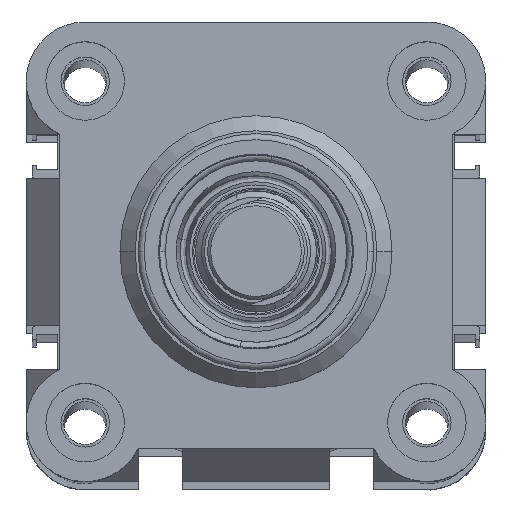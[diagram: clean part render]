
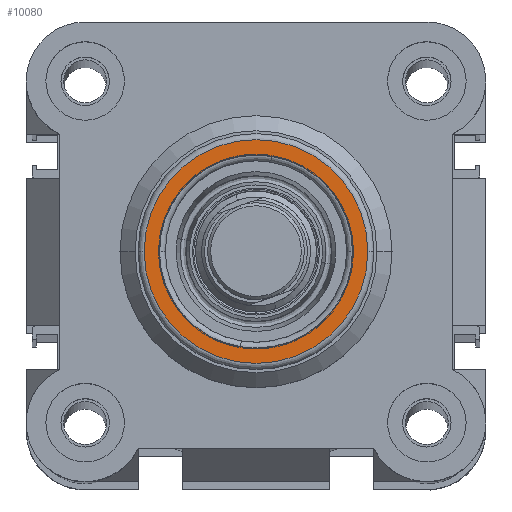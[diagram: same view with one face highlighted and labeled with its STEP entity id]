
A CAD part, top view. The second image highlights one B-rep face of the part: STEP entity #10080.
In plain terms, the highlighted planar face has unit normal (0, 0, 1).
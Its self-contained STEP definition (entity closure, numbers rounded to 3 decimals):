
#272 = PLANE ( 'NONE',  #20692 ) ;
#445 = VERTEX_POINT ( 'NONE', #18440 ) ;
#858 = CIRCLE ( 'NONE', #10802, 18.5 ) ;
#1491 = EDGE_CURVE ( 'NONE', #14494, #8308, #858, .T. ) ;
#1973 = CARTESIAN_POINT ( 'NONE',  ( 38., 38., 62. ) ) ;
#1992 = CARTESIAN_POINT ( 'NONE',  ( 22., 38., 62. ) ) ;
#2621 = CARTESIAN_POINT ( 'NONE',  ( 38., 38., 62. ) ) ;
#3370 = DIRECTION ( 'NONE',  ( 1., 0., 0. ) ) ;
#3420 = EDGE_CURVE ( 'NONE', #445, #14710, #6719, .T. ) ;
#3752 = CARTESIAN_POINT ( 'NONE',  ( 38., 38., 62. ) ) ;
#3951 = ORIENTED_EDGE ( 'NONE', *, *, #3420, .T. ) ;
#4295 = DIRECTION ( 'NONE',  ( 0., 0., -1. ) ) ;
#6663 = CIRCLE ( 'NONE', #8605, 18.5 ) ;
#6719 = CIRCLE ( 'NONE', #19710, 16. ) ;
#7616 = FACE_OUTER_BOUND ( 'NONE', #21456, .T. ) ;
#8308 = VERTEX_POINT ( 'NONE', #16377 ) ;
#8605 = AXIS2_PLACEMENT_3D ( 'NONE', #15340, #17104, #3370 ) ;
#8629 = DIRECTION ( 'NONE',  ( 0., 0., 1. ) ) ;
#10080 = ADVANCED_FACE ( 'NONE', ( #19432, #7616 ), #272, .T. ) ;
#10363 = DIRECTION ( 'NONE',  ( 1., 0., 0. ) ) ;
#10536 = DIRECTION ( 'NONE',  ( 1., 0., 0. ) ) ;
#10802 = AXIS2_PLACEMENT_3D ( 'NONE', #3752, #8629, #18632 ) ;
#11274 = CARTESIAN_POINT ( 'NONE',  ( 56.5, 38., 62. ) ) ;
#11726 = EDGE_CURVE ( 'NONE', #14710, #445, #18489, .T. ) ;
#13358 = EDGE_LOOP ( 'NONE', ( #3951, #14257 ) ) ;
#14257 = ORIENTED_EDGE ( 'NONE', *, *, #11726, .T. ) ;
#14494 = VERTEX_POINT ( 'NONE', #11274 ) ;
#14710 = VERTEX_POINT ( 'NONE', #1992 ) ;
#15102 = AXIS2_PLACEMENT_3D ( 'NONE', #2621, #4295, #21182 ) ;
#15340 = CARTESIAN_POINT ( 'NONE',  ( 38., 38., 62. ) ) ;
#15849 = CARTESIAN_POINT ( 'NONE',  ( 38., 38., 62. ) ) ;
#16377 = CARTESIAN_POINT ( 'NONE',  ( 19.5, 38., 62. ) ) ;
#16533 = ORIENTED_EDGE ( 'NONE', *, *, #1491, .T. ) ;
#17104 = DIRECTION ( 'NONE',  ( 0., 0., 1. ) ) ;
#18440 = CARTESIAN_POINT ( 'NONE',  ( 54., 38., 62. ) ) ;
#18489 = CIRCLE ( 'NONE', #15102, 16. ) ;
#18632 = DIRECTION ( 'NONE',  ( 1., 0., 0. ) ) ;
#18736 = DIRECTION ( 'NONE',  ( 0., 0., 1. ) ) ;
#18908 = EDGE_CURVE ( 'NONE', #8308, #14494, #6663, .T. ) ;
#19432 = FACE_BOUND ( 'NONE', #13358, .T. ) ;
#19710 = AXIS2_PLACEMENT_3D ( 'NONE', #15849, #20595, #10536 ) ;
#20595 = DIRECTION ( 'NONE',  ( 0., 0., -1. ) ) ;
#20692 = AXIS2_PLACEMENT_3D ( 'NONE', #1973, #18736, #10363 ) ;
#21182 = DIRECTION ( 'NONE',  ( 1., 0., 0. ) ) ;
#21184 = ORIENTED_EDGE ( 'NONE', *, *, #18908, .T. ) ;
#21456 = EDGE_LOOP ( 'NONE', ( #16533, #21184 ) ) ;
